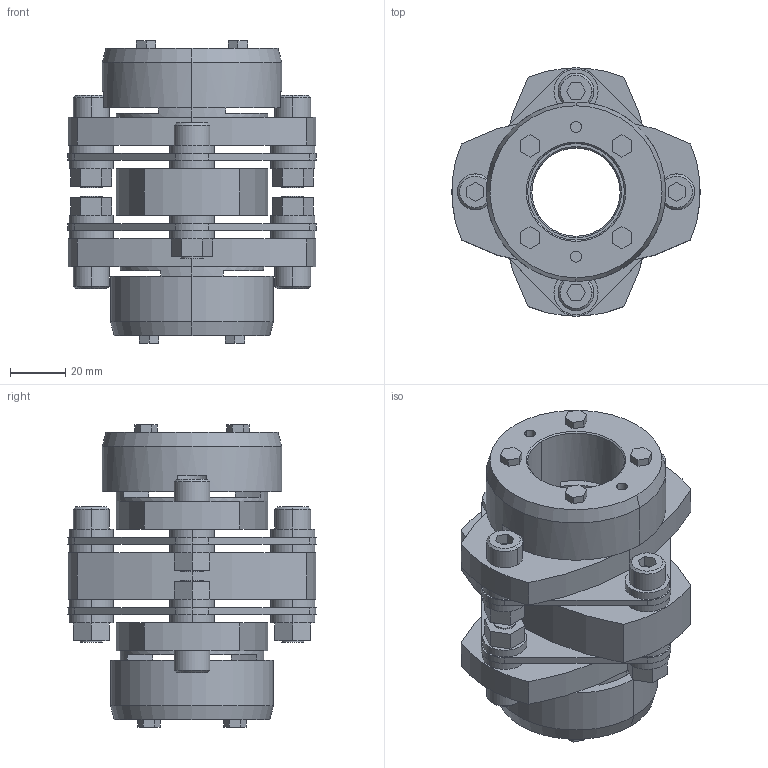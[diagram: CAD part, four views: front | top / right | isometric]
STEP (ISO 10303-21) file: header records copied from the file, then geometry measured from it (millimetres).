
FILE_DESCRIPTION((''),'2;1');
FILE_NAME('LCD-90T7-32×35.stp','2011-09-12T10:10:19',(''),(''),'AutoCAD STEP 2000i','AutoCAD 2000i',', , ');
FILE_SCHEMA(('CONFIG_CONTROL_DESIGN'));
Length unit declared in the file: millimetre
Products named in the file (12): LCD-90T7-32×35; 忣兜1; LC90T7-T035; LC90T7-T032-1; LC90T7-T032; LC90T7-T030-1; LC90T7-T030; LC90T7-T025-1; LC90T7-T025; LC90T7-T019-1; LC90T7-T019; LCD90-ITA
Assembly tree (12 placements, depth 2):
  LCD-90T7-32×35
    忣兜1
    LC90T7-T035  x2
    LC90T7-T032-1
    LC90T7-T032
    LC90T7-T030-1
    LC90T7-T030
    LC90T7-T025-1
    LC90T7-T025
    LC90T7-T019-1
    LC90T7-T019
    LCD90-ITA
Bounding box: 90 x 89.94 x 109.6 mm (x, y, z)
Volume: 254625 mm3; surface area: 73397.2 mm2
Topology: 1 solids, 1 shells, 339 faces, 828 edges, 542 vertices
Faces by surface type: plane 193, cylinder 122, cone 24
Entity records: 10299 total; most frequent: DIRECTION 1820, CARTESIAN_POINT 1722, ORIENTED_EDGE 1656, EDGE_CURVE 828, AXIS2_PLACEMENT_3D 640, VERTEX_POINT 542, VECTOR 540, LINE 540
